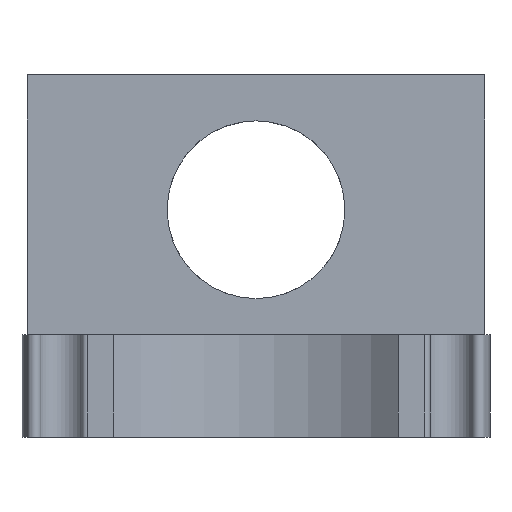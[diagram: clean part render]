
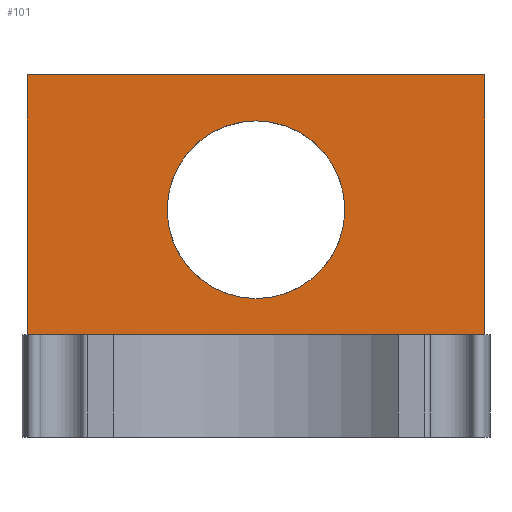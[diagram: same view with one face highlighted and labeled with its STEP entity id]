
A CAD part, front view. The second image highlights one B-rep face of the part: STEP entity #101.
In plain terms, the highlighted planar face has unit normal (0, -1, 0).
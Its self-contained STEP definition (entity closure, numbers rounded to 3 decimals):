
#30 = EDGE_CURVE ( 'NONE', #977, #941, #459, .T. ) ;
#47 = CIRCLE ( 'NONE', #912, 13. ) ;
#75 = CARTESIAN_POINT ( 'NONE',  ( 33.5, 0., 15. ) ) ;
#101 = ADVANCED_FACE ( 'NONE', ( #1218, #608 ), #450, .F. ) ;
#130 = DIRECTION ( 'NONE',  ( 0., 0., 1. ) ) ;
#138 = EDGE_LOOP ( 'NONE', ( #348, #333, #745, #779 ) ) ;
#183 = ORIENTED_EDGE ( 'NONE', *, *, #298, .T. ) ;
#233 = AXIS2_PLACEMENT_3D ( 'NONE', #571, #954, #468 ) ;
#280 = LINE ( 'NONE', #574, #575 ) ;
#298 = EDGE_CURVE ( 'NONE', #941, #977, #47, .T. ) ;
#333 = ORIENTED_EDGE ( 'NONE', *, *, #719, .T. ) ;
#348 = ORIENTED_EDGE ( 'NONE', *, *, #1106, .F. ) ;
#368 = VECTOR ( 'NONE', #130, 1000. ) ;
#395 = EDGE_CURVE ( 'NONE', #985, #705, #671, .T. ) ;
#410 = CARTESIAN_POINT ( 'NONE',  ( -33.5, 0., 0. ) ) ;
#450 = PLANE ( 'NONE',  #875 ) ;
#459 = CIRCLE ( 'NONE', #233, 13. ) ;
#468 = DIRECTION ( 'NONE',  ( 0., 0., 1. ) ) ;
#517 = CARTESIAN_POINT ( 'NONE',  ( -33.5, 0., 15. ) ) ;
#522 = ORIENTED_EDGE ( 'NONE', *, *, #30, .T. ) ;
#549 = CARTESIAN_POINT ( 'NONE',  ( -33.5, 0., 53. ) ) ;
#571 = CARTESIAN_POINT ( 'NONE',  ( 0., 0., 33.271 ) ) ;
#574 = CARTESIAN_POINT ( 'NONE',  ( -33.5, 0., 15. ) ) ;
#575 = VECTOR ( 'NONE', #958, 1000. ) ;
#591 = CARTESIAN_POINT ( 'NONE',  ( 0., 0., 46.271 ) ) ;
#608 = FACE_OUTER_BOUND ( 'NONE', #138, .T. ) ;
#625 = CARTESIAN_POINT ( 'NONE',  ( 33.5, 0., 53. ) ) ;
#667 = EDGE_CURVE ( 'NONE', #1160, #985, #751, .T. ) ;
#671 = LINE ( 'NONE', #763, #980 ) ;
#675 = VECTOR ( 'NONE', #1054, 1000. ) ;
#705 = VERTEX_POINT ( 'NONE', #75 ) ;
#719 = EDGE_CURVE ( 'NONE', #825, #705, #280, .T. ) ;
#745 = ORIENTED_EDGE ( 'NONE', *, *, #395, .F. ) ;
#751 = LINE ( 'NONE', #760, #675 ) ;
#760 = CARTESIAN_POINT ( 'NONE',  ( 33.5, 0., 53. ) ) ;
#763 = CARTESIAN_POINT ( 'NONE',  ( 33.5, 0., 0. ) ) ;
#779 = ORIENTED_EDGE ( 'NONE', *, *, #667, .F. ) ;
#808 = DIRECTION ( 'NONE',  ( 0., 0., 1. ) ) ;
#825 = VERTEX_POINT ( 'NONE', #517 ) ;
#846 = EDGE_LOOP ( 'NONE', ( #183, #522 ) ) ;
#875 = AXIS2_PLACEMENT_3D ( 'NONE', #1195, #1116, #1133 ) ;
#909 = CARTESIAN_POINT ( 'NONE',  ( 0., 0., 33.271 ) ) ;
#912 = AXIS2_PLACEMENT_3D ( 'NONE', #909, #1000, #808 ) ;
#941 = VERTEX_POINT ( 'NONE', #591 ) ;
#954 = DIRECTION ( 'NONE',  ( 0., 1., 0. ) ) ;
#958 = DIRECTION ( 'NONE',  ( 1., 0., 0. ) ) ;
#977 = VERTEX_POINT ( 'NONE', #1164 ) ;
#980 = VECTOR ( 'NONE', #1142, 1000. ) ;
#985 = VERTEX_POINT ( 'NONE', #625 ) ;
#1000 = DIRECTION ( 'NONE',  ( 0., 1., 0. ) ) ;
#1054 = DIRECTION ( 'NONE',  ( 1., 0., 0. ) ) ;
#1106 = EDGE_CURVE ( 'NONE', #825, #1160, #1206, .T. ) ;
#1116 = DIRECTION ( 'NONE',  ( 0., 1., 0. ) ) ;
#1133 = DIRECTION ( 'NONE',  ( 0., 0., 1. ) ) ;
#1142 = DIRECTION ( 'NONE',  ( 0., 0., -1. ) ) ;
#1160 = VERTEX_POINT ( 'NONE', #549 ) ;
#1164 = CARTESIAN_POINT ( 'NONE',  ( 0., 0., 20.271 ) ) ;
#1195 = CARTESIAN_POINT ( 'NONE',  ( 0., 0., 0. ) ) ;
#1206 = LINE ( 'NONE', #410, #368 ) ;
#1218 = FACE_BOUND ( 'NONE', #846, .T. ) ;
